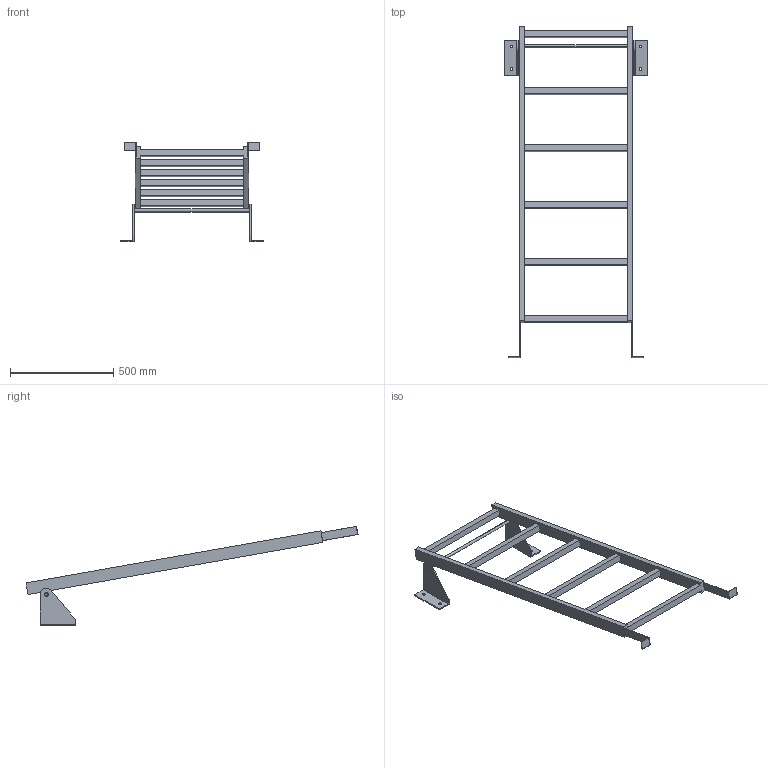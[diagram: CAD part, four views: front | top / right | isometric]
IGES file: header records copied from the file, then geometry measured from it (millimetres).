
Start section:  PTC IGES file: 52309757.igs
Global section: file name: 52309757.igs; native system: Creo Parametric by PTC Inc.; preprocessor: 2022162; author: wep; organization: Unknown; date: 20241017.085451; units: millimetre
Bounding box: 690 x 1607.75 x 480.92 mm (x, y, z)
Surface area: 1028678.7 mm2 (no closed solid volume)
Topology: 0 solids, 0 shells, 82 faces, 432 edges, 432 vertices
Faces by surface type: bspline 66, revolution 16
